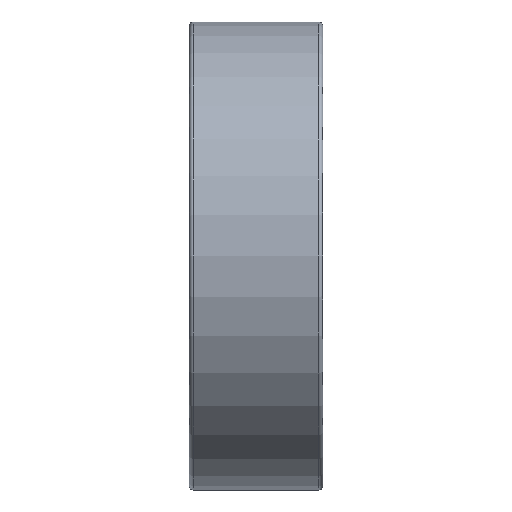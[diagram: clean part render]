
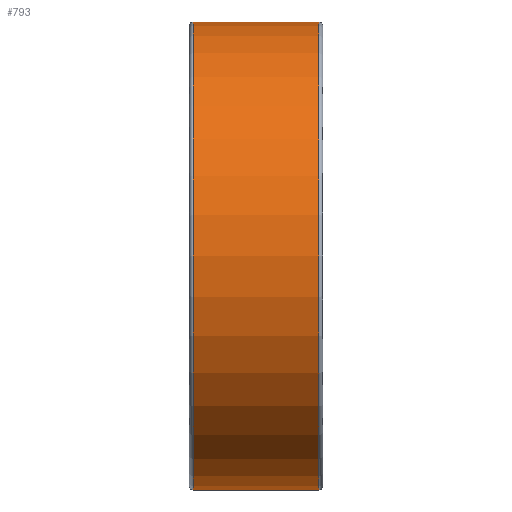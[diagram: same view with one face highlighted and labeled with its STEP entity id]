
A CAD part, front view. The second image highlights one B-rep face of the part: STEP entity #793.
In plain terms, the highlighted cylindrical face has radius 17.5 mm (diameter 35 mm), a full revolution.
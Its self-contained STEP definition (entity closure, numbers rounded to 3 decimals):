
#45=LINE('',#1526,#51);
#51=VECTOR('',#1245,17.5);
#56=CYLINDRICAL_SURFACE('',#962,17.5);
#132=FACE_OUTER_BOUND('',#195,.T.);
#195=EDGE_LOOP('',(#708,#709,#710,#711,#712,#713));
#296=CIRCLE('',#957,17.5);
#297=CIRCLE('',#958,17.5);
#300=CIRCLE('',#963,17.5);
#301=CIRCLE('',#964,17.5);
#415=VERTEX_POINT('',#1514);
#416=VERTEX_POINT('',#1515);
#418=VERTEX_POINT('',#1523);
#419=VERTEX_POINT('',#1524);
#516=EDGE_CURVE('',#415,#416,#296,.T.);
#517=EDGE_CURVE('',#416,#415,#297,.T.);
#520=EDGE_CURVE('',#418,#419,#300,.T.);
#521=EDGE_CURVE('',#418,#416,#45,.T.);
#522=EDGE_CURVE('',#419,#418,#301,.T.);
#708=ORIENTED_EDGE('',*,*,#520,.F.);
#709=ORIENTED_EDGE('',*,*,#521,.T.);
#710=ORIENTED_EDGE('',*,*,#516,.F.);
#711=ORIENTED_EDGE('',*,*,#517,.F.);
#712=ORIENTED_EDGE('',*,*,#521,.F.);
#713=ORIENTED_EDGE('',*,*,#522,.F.);
#793=ADVANCED_FACE('',(#132),#56,.T.);
#957=AXIS2_PLACEMENT_3D('',#1516,#1231,#1232);
#958=AXIS2_PLACEMENT_3D('',#1517,#1233,#1234);
#962=AXIS2_PLACEMENT_3D('',#1522,#1241,#1242);
#963=AXIS2_PLACEMENT_3D('',#1525,#1243,#1244);
#964=AXIS2_PLACEMENT_3D('',#1527,#1246,#1247);
#1231=DIRECTION('center_axis',(-1.,0.,0.));
#1232=DIRECTION('ref_axis',(0.,-1.,0.));
#1233=DIRECTION('center_axis',(-1.,0.,0.));
#1234=DIRECTION('ref_axis',(0.,-1.,0.));
#1241=DIRECTION('center_axis',(1.,0.,0.));
#1242=DIRECTION('ref_axis',(0.,1.,0.));
#1243=DIRECTION('center_axis',(1.,0.,0.));
#1244=DIRECTION('ref_axis',(0.,-1.,0.));
#1245=DIRECTION('',(-1.,0.,0.));
#1246=DIRECTION('center_axis',(1.,0.,0.));
#1247=DIRECTION('ref_axis',(0.,-1.,0.));
#1514=CARTESIAN_POINT('',(0.3,0.,17.5));
#1515=CARTESIAN_POINT('',(0.3,-17.5,0.));
#1516=CARTESIAN_POINT('Origin',(0.3,0.,0.));
#1517=CARTESIAN_POINT('Origin',(0.3,0.,0.));
#1522=CARTESIAN_POINT('Origin',(5.,0.,0.));
#1523=CARTESIAN_POINT('',(9.7,-17.5,0.));
#1524=CARTESIAN_POINT('',(9.7,0.,17.5));
#1525=CARTESIAN_POINT('Origin',(9.7,0.,0.));
#1526=CARTESIAN_POINT('',(5.,-17.5,0.));
#1527=CARTESIAN_POINT('Origin',(9.7,0.,0.));
